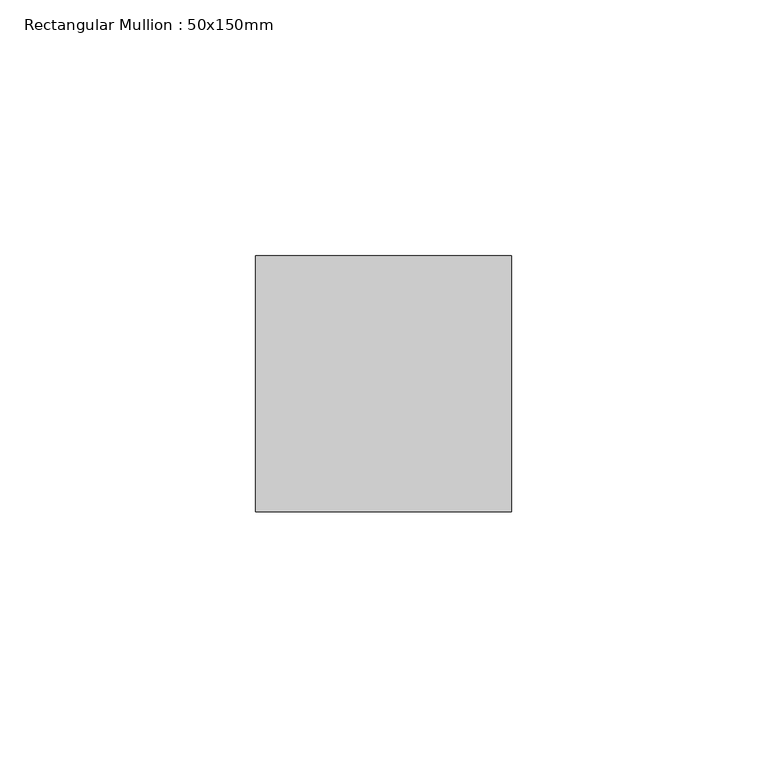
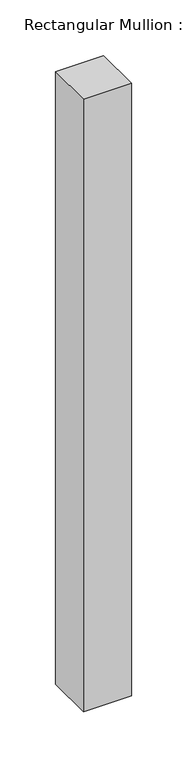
"""IFC4 building model written with IfcOpenShell, lengths in millimetres: member geometry, Rectangular Mullion : 50x150mm."""

from ifc_helpers import new_model, si_unit, frame, origin, place, context, project, spatial, polyline, outline, extrude, source, transform, mapped, element, save


def rectangular_mullion_50x150mm_bbfc3f09(model_context):
    return source(origin(), model_context, "Body", "SweptSolid", [
        extrude(outline(polyline([(25.0, 25.0), (25.0, -25.0), (-25.0, -25.0), (-25.0, 25.0), (25.0, 25.0)])), frame((0.0, 0.0, -671.6666667), z_axis=(0.0, 0.0, 1.0), x_axis=(1.0, 0.0, 0.0)), (0.0, 0.0, 1.0), 671.6666667),
    ])


if __name__ == "__main__":
    model = new_model("IFC4")
    model_context = context("Model", 3, world=origin())
    ifc_project = project(units=[si_unit("LENGTHUNIT", "METRE", prefix="MILLI")], contexts=[model_context])
    site = spatial("IfcSite", under=ifc_project)
    building = spatial("IfcBuilding", under=site)
    placement = place(None, origin())
    rectangular_mullion_50x150mm_shape = rectangular_mullion_50x150mm_bbfc3f09(model_context)
    element("IfcMember", 1, ObjectType="Rectangular Mullion : 50x150mm", at=placement, inside=building, context=model_context, shape_type="MappedRepresentation", body=[
        mapped(rectangular_mullion_50x150mm_shape, transform((0.0, 0.0, 0.0), x_axis=(1.0, 0.0, 0.0), y_axis=(0.0, 1.0, 0.0), z_axis=(0.0, 0.0, 1.0))),
    ])
    save(model, "model.ifc")
